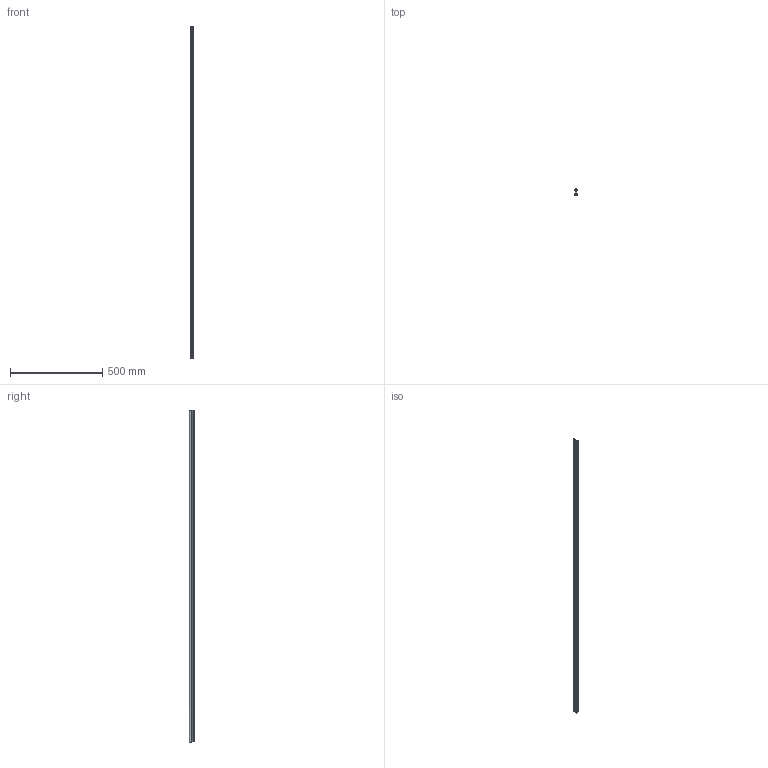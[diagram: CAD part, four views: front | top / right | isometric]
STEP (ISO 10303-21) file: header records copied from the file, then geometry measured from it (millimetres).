
FILE_DESCRIPTION (( 'STEP AP203' ), '1' );
FILE_NAME ('LFS-12-11_-_LFS-12-11 L=1798 - ArtNr 220002 1798.step', '2015-05-04T10:56:05', ( '' ), ( '' ), 'SwSTEP 2.0', 'SolidWorks 2014', '' );
FILE_SCHEMA (( 'CONFIG_CONTROL_DESIGN' ));
Products named in the file (1): LFS-12-11_-_LFS-12-11 L=1798 - ArtNr 220002 1798
Bounding box: 20 x 31 x 1800 mm (x, y, z)
Volume: 543998.9 mm3; surface area: 243296 mm2
Topology: 1 solids, 1 shells, 1234 faces, 3304 edges, 2106 vertices
Faces by surface type: cylinder 591, plane 571, cone 36, torus 36
Full cylindrical faces by diameter (mm): 7 x36, 8 x36, 12 x1
Entity records: 39548 total; most frequent: CARTESIAN_POINT 11826, ORIENTED_EDGE 6172, DIRECTION 5013, EDGE_CURVE 3086, VERTEX_POINT 2033, AXIS2_PLACEMENT_3D 1700, LINE 1613, VECTOR 1613
